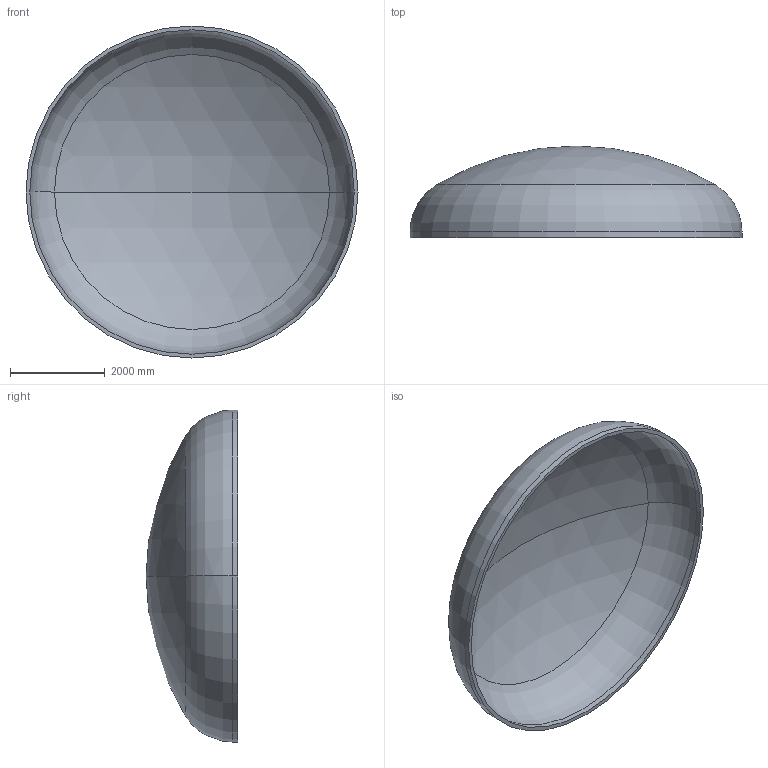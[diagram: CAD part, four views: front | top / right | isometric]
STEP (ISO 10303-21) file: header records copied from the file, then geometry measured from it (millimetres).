
FILE_DESCRIPTION (( 'STEP AP203' ), '1' );
FILE_NAME ('DIN 28013 Korbbogenform_-_Boden DIN 28013 - 7000 x 120 - I - s=80.step', '2016-07-04T10:49:13', ( '' ), ( '' ), 'SwSTEP 2.0', 'SolidWorks 2013', '' );
FILE_SCHEMA (( 'CONFIG_CONTROL_DESIGN' ));
Length unit declared in the file: millimetre
Products named in the file (1): DIN 28013 Korbbogenform_-_Boden DIN 28013 - 7000 x 120 - I - s=80
Bounding box: 7000 x 1932.86 x 7000 mm (x, y, z)
Volume: 4410317523.1 mm3; surface area: 112010485.9 mm2
Topology: 1 solids, 1 shells, 13 faces, 24 edges, 14 vertices
Faces by surface type: torus 4, cylinder 4, sphere 4, plane 1
Entity records: 407 total; most frequent: DIRECTION 72, CARTESIAN_POINT 52, ORIENTED_EDGE 48, AXIS2_PLACEMENT_3D 34, EDGE_CURVE 24, CIRCLE 20, VERTEX_POINT 14, EDGE_LOOP 14
